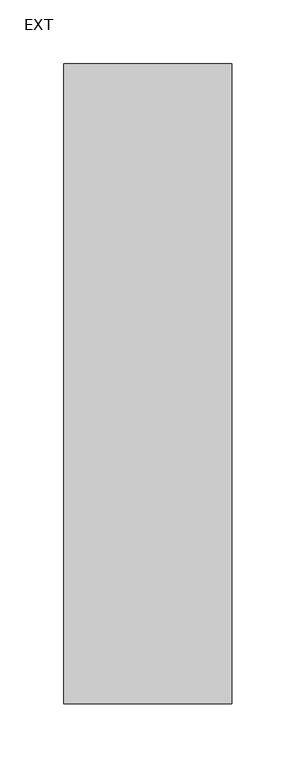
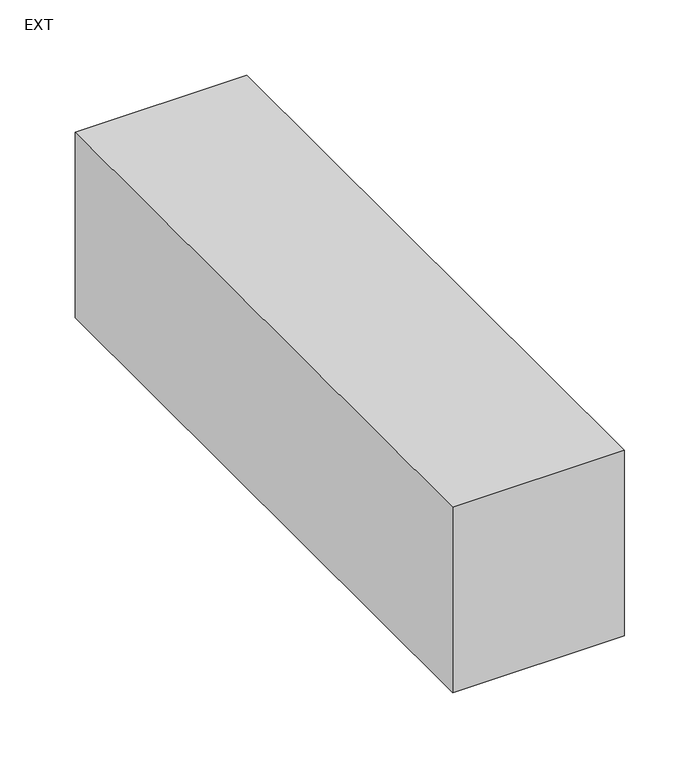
"""IFC4 building model written with IfcOpenShell, lengths in millimetres: duct fitting geometry, M_Toma de derivación rectangular : EXT."""

from ifc_helpers import new_model, si_unit, frame, origin, place, context, project, spatial, polyline, outline, extrude, source, transform, mapped, element, save


def ext_ba5def94(model_context):
    return source(origin(), model_context, "Body", "SweptSolid", [
        extrude(outline(polyline([(-6.096, 250.0), (125.0, 250.0), (125.0, -250.0), (-6.096, -250.0), (-6.096, 250.0)])), frame((0.0, 0.0, -75.0), z_axis=(0.0, 0.0, 1.0), x_axis=(1.0, 0.0, 0.0)), (0.0, 0.0, 1.0), 150.0),
    ])


if __name__ == "__main__":
    model = new_model("IFC4")
    model_context = context("Model", 3, world=origin())
    ifc_project = project(units=[si_unit("LENGTHUNIT", "METRE", prefix="MILLI")], contexts=[model_context])
    site = spatial("IfcSite", under=ifc_project)
    building = spatial("IfcBuilding", under=site)
    placement = place(None, origin())
    ext_shape = ext_ba5def94(model_context)
    element("IfcDuctFitting", 1, ObjectType="M_Toma de derivación rectangular : EXT", at=placement, inside=building, context=model_context, shape_type="MappedRepresentation", body=[
        mapped(ext_shape, transform((0.0, 0.0, 0.0), x_axis=(1.0, 0.0, 0.0), y_axis=(0.0, 1.0, 0.0), z_axis=(0.0, 0.0, 1.0))),
    ])
    save(model, "model.ifc")
